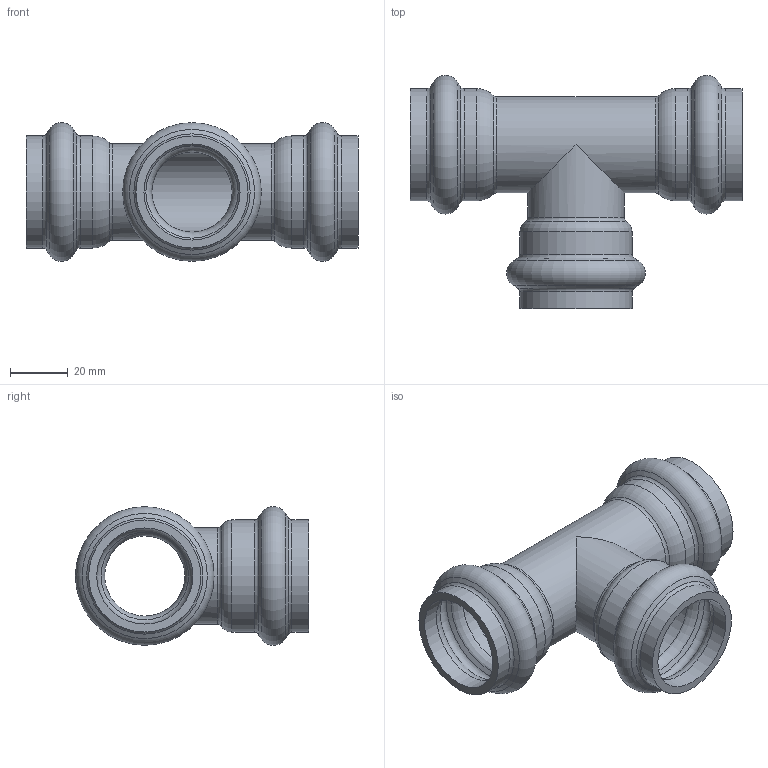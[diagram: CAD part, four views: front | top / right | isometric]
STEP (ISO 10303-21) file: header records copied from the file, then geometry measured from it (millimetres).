
FILE_DESCRIPTION(/* description */ ('VIC TEE STYLE P592 (P X P X P)','CAx-IF Rec.Pracs.---Representation and Presentation of Product Manufacturing Information (PMI)---4.0---2014-10-13'),/* implementation_level */ '2;1');
FILE_NAME(/* name */ 'C:\Users\Vjadhav\AppData\Roaming\Autodesk\ApplicationPlugins\Back Up\Victaulic_SS-Vic-Press-TP 304_Tee_Style P592 (VP)\Victaulic_SS-Vic-Press-TP 304_Tee_Style P592 (VP)_1 (25).stp',/* time_stamp */ '2020-08-12T19:00:53+06:00',/* author */ ('cgray'),/* organization */ ('Victaulic'),/* preprocessor_version */ 'ST-DEVELOPER v17.2',/* originating_system */ 'Autodesk Inventor 2019',/* authorisation */ '');
FILE_SCHEMA (('AP242_MANAGED_MODEL_BASED_3D_ENGINEERING_MIM_LF { 1 0 10303 442 1 1 4 }'));
Length unit declared in the file: inch
Products named in the file (1): P592-01.0
Bounding box: 115.32 x 80.98 x 48.16 mm (x, y, z)
Volume: 51099.6 mm3; surface area: 37837 mm2
Topology: 1 solids, 1 shells, 61 faces, 220 edges, 160 vertices
Faces by surface type: torus 30, cylinder 16, cone 12, plane 3
Full cylindrical faces by diameter (mm): 27.864 x2, 33.401 x8, 38.938 x6
Entity records: 2745 total; most frequent: DIRECTION 560, CARTESIAN_POINT 459, ORIENTED_EDGE 440, AXIS2_PLACEMENT_3D 265, EDGE_CURVE 220, CIRCLE 182, VERTEX_POINT 160, EDGE_LOOP 64
